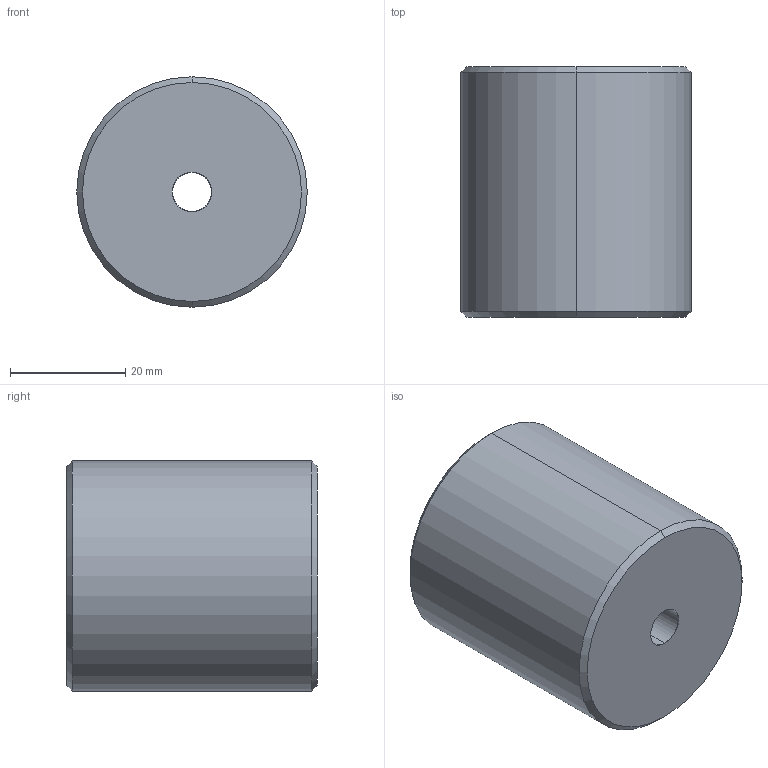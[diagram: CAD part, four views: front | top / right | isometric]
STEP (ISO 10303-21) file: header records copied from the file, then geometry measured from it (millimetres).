
FILE_DESCRIPTION (( 'STEP AP214' ), '1' );
FILE_NAME ('GMP30B.STEP', '2019-11-12T09:13:50', ( '微软用户' ), ( '微软中国' ), 'SwSTEP 2.0', 'SolidWorks 2016', '' );
FILE_SCHEMA (( 'AUTOMOTIVE_DESIGN' ));
Length unit declared in the file: millimetre
Products named in the file (1): GMP30B
Bounding box: 40 x 43.5 x 40 mm (x, y, z)
Volume: 34307.1 mm3; surface area: 11009.9 mm2
Topology: 1 solids, 1 shells, 28 faces, 62 edges, 38 vertices
Faces by surface type: cylinder 12, cone 12, plane 4
Entity records: 822 total; most frequent: DIRECTION 158, CARTESIAN_POINT 129, ORIENTED_EDGE 124, AXIS2_PLACEMENT_3D 67, EDGE_CURVE 62, VERTEX_POINT 38, CIRCLE 38, EDGE_LOOP 32
